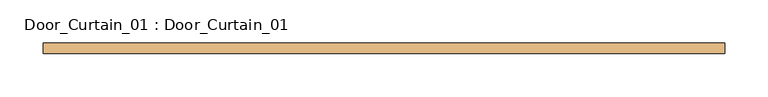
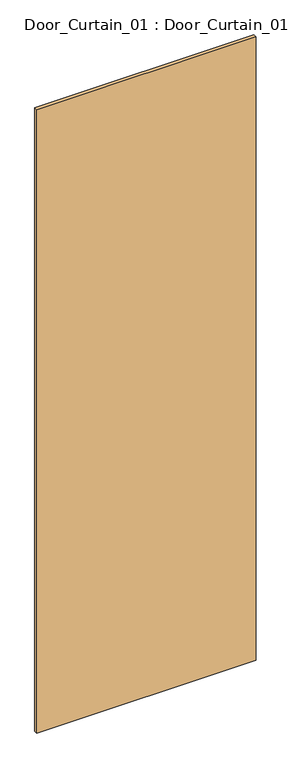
"""IFC4 building model written with IfcOpenShell, lengths in millimetres: door geometry, Door_Curtain_01 : Door_Curtain_01."""

from ifc_helpers import new_model, si_unit, origin, origin_with_axes, place, context, project, spatial, polyline, outline, extrude, source, transform, mapped, element, save


def door_curtain_01_door_curtain_01_359b2a1c(model_context):
    return source(origin(), model_context, "Body", "SweptSolid", [
        extrude(outline(polyline([(396.25, 5.0), (396.25, -7.7), (-396.25, -7.7), (-396.25, 5.0), (396.25, 5.0)])), origin_with_axes(), (0.0, 0.0, 1.0), 2380.0),
    ])


if __name__ == "__main__":
    model = new_model("IFC4")
    model_context = context("Model", 3, world=origin())
    ifc_project = project(units=[si_unit("LENGTHUNIT", "METRE", prefix="MILLI")], contexts=[model_context])
    site = spatial("IfcSite", under=ifc_project)
    building = spatial("IfcBuilding", under=site)
    placement = place(None, origin())
    door_curtain_01_door_curtain_01_shape = door_curtain_01_door_curtain_01_359b2a1c(model_context)
    element("IfcDoor", 1, ObjectType="Door_Curtain_01 : Door_Curtain_01", at=placement, inside=building, context=model_context, shape_type="MappedRepresentation", body=[
        mapped(door_curtain_01_door_curtain_01_shape, transform((0.0, 0.0, 0.0), x_axis=(1.0, 0.0, 0.0), y_axis=(0.0, 1.0, 0.0), z_axis=(0.0, 0.0, 1.0))),
    ])
    save(model, "model.ifc")
